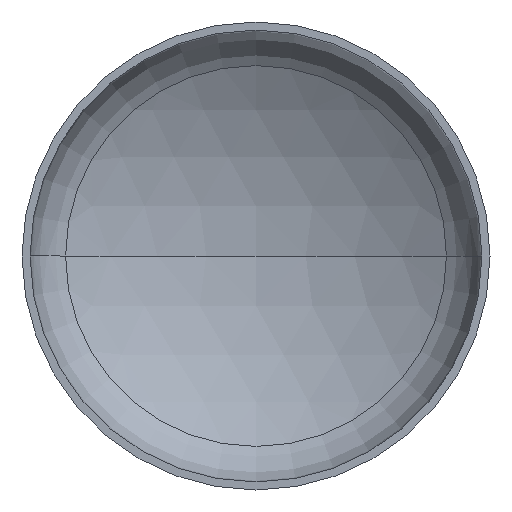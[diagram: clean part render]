
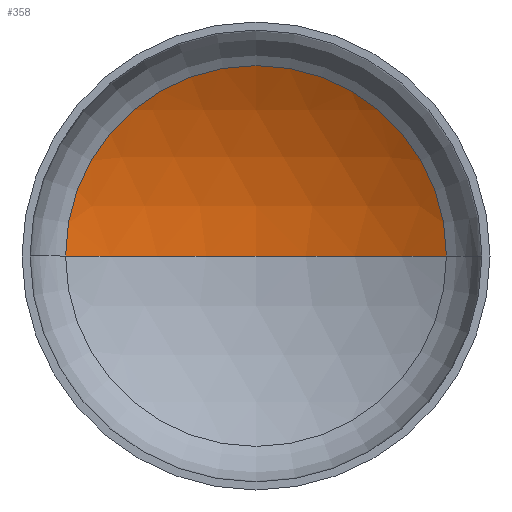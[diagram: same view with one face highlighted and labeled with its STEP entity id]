
A CAD part, front view. The second image highlights one B-rep face of the part: STEP entity #358.
In plain terms, the highlighted spherical face has radius 4800 mm.
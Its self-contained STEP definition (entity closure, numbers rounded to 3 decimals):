
#2 = ORIENTED_EDGE ( 'NONE', *, *, #133, .T. ) ;
#13 = AXIS2_PLACEMENT_3D ( 'NONE', #203, #132, #123 ) ;
#24 = VERTEX_POINT ( 'NONE', #255 ) ;
#59 = AXIS2_PLACEMENT_3D ( 'NONE', #193, #194, #197 ) ;
#65 = ORIENTED_EDGE ( 'NONE', *, *, #137, .F. ) ;
#67 = AXIS2_PLACEMENT_3D ( 'NONE', #219, #221, #214 ) ;
#70 = AXIS2_PLACEMENT_3D ( 'NONE', #199, #291, #289 ) ;
#107 = VERTEX_POINT ( 'NONE', #223 ) ;
#123 = DIRECTION ( 'NONE',  ( -1., 0., 0. ) ) ;
#131 = EDGE_CURVE ( 'NONE', #107, #24, #135, .T. ) ;
#132 = DIRECTION ( 'NONE',  ( 0., 0., -1. ) ) ;
#133 = EDGE_CURVE ( 'NONE', #179, #107, #401, .T. ) ;
#135 = CIRCLE ( 'NONE', #70, 2441.497 ) ;
#137 = EDGE_CURVE ( 'NONE', #179, #24, #235, .T. ) ;
#139 = EDGE_LOOP ( 'NONE', ( #65, #2, #320 ) ) ;
#179 = VERTEX_POINT ( 'NONE', #272 ) ;
#193 = CARTESIAN_POINT ( 'NONE',  ( 0., -3261.283, 0. ) ) ;
#194 = DIRECTION ( 'NONE',  ( 0., 0., 1. ) ) ;
#197 = DIRECTION ( 'NONE',  ( 1., 0., 0. ) ) ;
#199 = CARTESIAN_POINT ( 'NONE',  ( 0., 871.403, 0. ) ) ;
#203 = CARTESIAN_POINT ( 'NONE',  ( 0., -3261.283, 0. ) ) ;
#214 = DIRECTION ( 'NONE',  ( -1., 0., 0. ) ) ;
#219 = CARTESIAN_POINT ( 'NONE',  ( 0., -3261.283, 0. ) ) ;
#221 = DIRECTION ( 'NONE',  ( 0., 0., -1. ) ) ;
#223 = CARTESIAN_POINT ( 'NONE',  ( 2441.497, 871.403, 0. ) ) ;
#235 = CIRCLE ( 'NONE', #59, 4800. ) ;
#255 = CARTESIAN_POINT ( 'NONE',  ( -2441.497, 871.403, 0. ) ) ;
#272 = CARTESIAN_POINT ( 'NONE',  ( 0., 1538.717, 0. ) ) ;
#289 = DIRECTION ( 'NONE',  ( 1., 0., 0. ) ) ;
#291 = DIRECTION ( 'NONE',  ( 0., -1., 0. ) ) ;
#316 = FACE_OUTER_BOUND ( 'NONE', #139, .T. ) ;
#320 = ORIENTED_EDGE ( 'NONE', *, *, #131, .T. ) ;
#322 = SPHERICAL_SURFACE ( 'NONE', #13, 4800. ) ;
#358 = ADVANCED_FACE ( 'NONE', ( #316 ), #322, .F. ) ;
#401 = CIRCLE ( 'NONE', #67, 4800. ) ;
